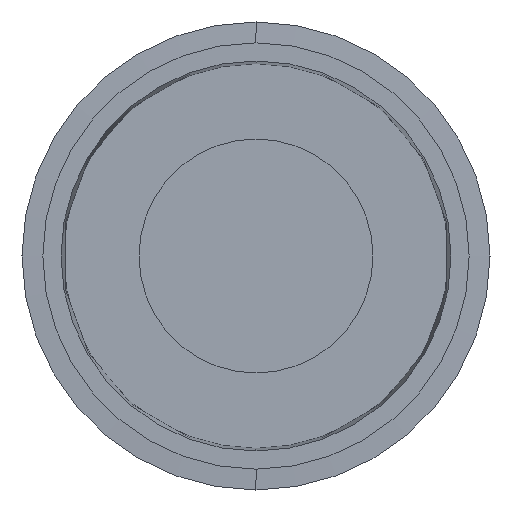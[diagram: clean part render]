
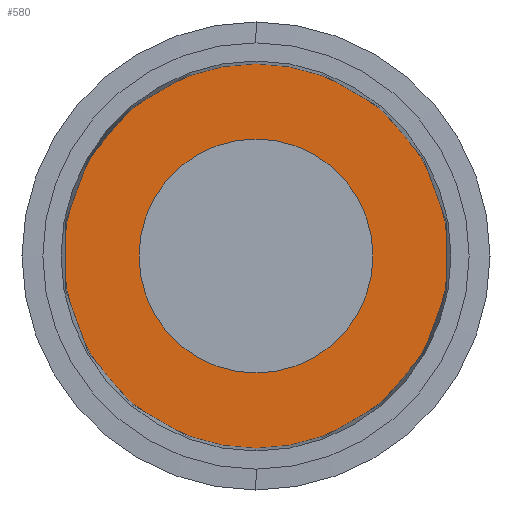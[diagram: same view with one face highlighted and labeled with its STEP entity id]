
A CAD part, left-side view. The second image highlights one B-rep face of the part: STEP entity #580.
In plain terms, the highlighted planar face has unit normal (-1, 0, 0).
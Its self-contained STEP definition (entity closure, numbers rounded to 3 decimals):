
#60 = ORIENTED_EDGE ( 'NONE', *, *, #583, .T. ) ;
#138 = VERTEX_POINT ( 'NONE', #697 ) ;
#150 = VERTEX_POINT ( 'NONE', #1186 ) ;
#220 = PLANE ( 'NONE',  #1302 ) ;
#227 = EDGE_CURVE ( 'NONE', #150, #1331, #1152, .T. ) ;
#279 = VERTEX_POINT ( 'NONE', #1110 ) ;
#389 = ORIENTED_EDGE ( 'NONE', *, *, #227, .T. ) ;
#536 = CIRCLE ( 'NONE', #644, 3. ) ;
#538 = CARTESIAN_POINT ( 'NONE',  ( 2., 0., 0. ) ) ;
#573 = CIRCLE ( 'NONE', #1243, 4.93 ) ;
#580 = ADVANCED_FACE ( 'NONE', ( #851, #1125 ), #220, .T. ) ;
#583 = EDGE_CURVE ( 'NONE', #1331, #150, #573, .T. ) ;
#620 = DIRECTION ( 'NONE',  ( -1., 0., 0. ) ) ;
#630 = DIRECTION ( 'NONE',  ( 0., 0., 1. ) ) ;
#644 = AXIS2_PLACEMENT_3D ( 'NONE', #792, #804, #814 ) ;
#658 = ORIENTED_EDGE ( 'NONE', *, *, #1136, .F. ) ;
#697 = CARTESIAN_POINT ( 'NONE',  ( 2., 0., -3. ) ) ;
#718 = CARTESIAN_POINT ( 'NONE',  ( 2., 0., 0. ) ) ;
#723 = DIRECTION ( 'NONE',  ( -1., 0., 0. ) ) ;
#728 = DIRECTION ( 'NONE',  ( 0., 0., 1. ) ) ;
#792 = CARTESIAN_POINT ( 'NONE',  ( 2., 0., 0. ) ) ;
#804 = DIRECTION ( 'NONE',  ( -1., 0., 0. ) ) ;
#814 = DIRECTION ( 'NONE',  ( 0., 0., 1. ) ) ;
#851 = FACE_BOUND ( 'NONE', #1233, .T. ) ;
#904 = CARTESIAN_POINT ( 'NONE',  ( 2., 0., 4.93 ) ) ;
#920 = ORIENTED_EDGE ( 'NONE', *, *, #1201, .F. ) ;
#952 = CIRCLE ( 'NONE', #1255, 3. ) ;
#1016 = EDGE_LOOP ( 'NONE', ( #60, #389 ) ) ;
#1039 = AXIS2_PLACEMENT_3D ( 'NONE', #1088, #1291, #1105 ) ;
#1088 = CARTESIAN_POINT ( 'NONE',  ( 2., 0., 0. ) ) ;
#1105 = DIRECTION ( 'NONE',  ( 0., 0., 1. ) ) ;
#1110 = CARTESIAN_POINT ( 'NONE',  ( 2., 0., 3. ) ) ;
#1125 = FACE_OUTER_BOUND ( 'NONE', #1016, .T. ) ;
#1136 = EDGE_CURVE ( 'NONE', #279, #138, #536, .T. ) ;
#1152 = CIRCLE ( 'NONE', #1039, 4.93 ) ;
#1186 = CARTESIAN_POINT ( 'NONE',  ( 2., 0., -4.93 ) ) ;
#1201 = EDGE_CURVE ( 'NONE', #138, #279, #952, .T. ) ;
#1233 = EDGE_LOOP ( 'NONE', ( #658, #920 ) ) ;
#1243 = AXIS2_PLACEMENT_3D ( 'NONE', #718, #723, #728 ) ;
#1255 = AXIS2_PLACEMENT_3D ( 'NONE', #1293, #1299, #1315 ) ;
#1291 = DIRECTION ( 'NONE',  ( -1., 0., 0. ) ) ;
#1293 = CARTESIAN_POINT ( 'NONE',  ( 2., 0., 0. ) ) ;
#1299 = DIRECTION ( 'NONE',  ( -1., 0., 0. ) ) ;
#1302 = AXIS2_PLACEMENT_3D ( 'NONE', #538, #620, #630 ) ;
#1315 = DIRECTION ( 'NONE',  ( 0., 0., 1. ) ) ;
#1331 = VERTEX_POINT ( 'NONE', #904 ) ;
